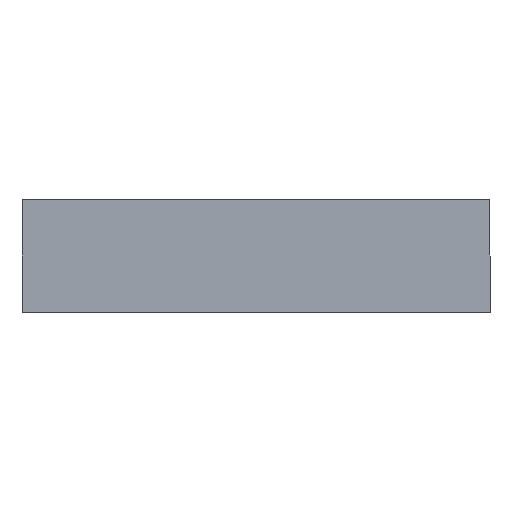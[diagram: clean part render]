
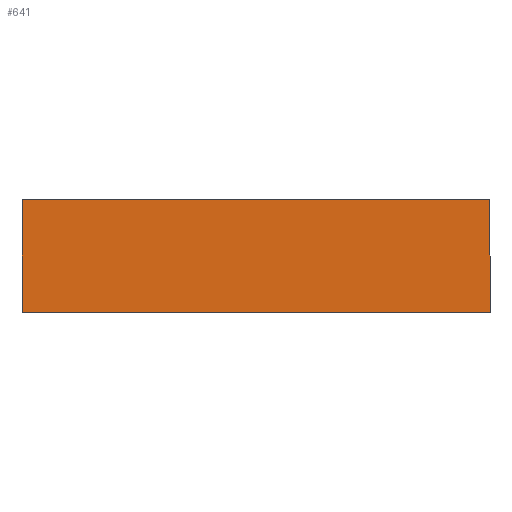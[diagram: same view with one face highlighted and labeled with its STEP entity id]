
A CAD part, front view. The second image highlights one B-rep face of the part: STEP entity #641.
In plain terms, the highlighted planar face has unit normal (0, -1, 0).
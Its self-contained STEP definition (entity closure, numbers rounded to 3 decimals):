
#12 = VECTOR ( 'NONE', #159, 1000. ) ;
#47 = FACE_OUTER_BOUND ( 'NONE', #498, .T. ) ;
#62 = VECTOR ( 'NONE', #256, 1000. ) ;
#64 = LINE ( 'NONE', #257, #62 ) ;
#75 = LINE ( 'NONE', #157, #12 ) ;
#82 = EDGE_CURVE ( 'NONE', #293, #211, #604, .T. ) ;
#98 = EDGE_CURVE ( 'NONE', #206, #294, #553, .T. ) ;
#108 = EDGE_CURVE ( 'NONE', #294, #293, #75, .T. ) ;
#127 = EDGE_CURVE ( 'NONE', #211, #206, #64, .T. ) ;
#130 = DIRECTION ( 'NONE',  ( 0., 0., -1. ) ) ;
#147 = CARTESIAN_POINT ( 'NONE',  ( -104., 0., 0. ) ) ;
#157 = CARTESIAN_POINT ( 'NONE',  ( -104., 0., 0. ) ) ;
#159 = DIRECTION ( 'NONE',  ( 1., 0., 0. ) ) ;
#171 = CARTESIAN_POINT ( 'NONE',  ( 104., 0., 0. ) ) ;
#206 = VERTEX_POINT ( 'NONE', #252 ) ;
#211 = VERTEX_POINT ( 'NONE', #250 ) ;
#234 = DIRECTION ( 'NONE',  ( 0., 0., 1. ) ) ;
#250 = CARTESIAN_POINT ( 'NONE',  ( 104., 0., 50. ) ) ;
#252 = CARTESIAN_POINT ( 'NONE',  ( -104., 0., 50. ) ) ;
#256 = DIRECTION ( 'NONE',  ( -1., 0., 0. ) ) ;
#257 = CARTESIAN_POINT ( 'NONE',  ( -104., 0., 50. ) ) ;
#280 = CARTESIAN_POINT ( 'NONE',  ( -104., 0., 0. ) ) ;
#283 = CARTESIAN_POINT ( 'NONE',  ( 104., 0., 0. ) ) ;
#293 = VERTEX_POINT ( 'NONE', #283 ) ;
#294 = VERTEX_POINT ( 'NONE', #280 ) ;
#310 = AXIS2_PLACEMENT_3D ( 'NONE', #384, #404, #337 ) ;
#337 = DIRECTION ( 'NONE',  ( -1., 0., 0. ) ) ;
#384 = CARTESIAN_POINT ( 'NONE',  ( -104., 0., 50. ) ) ;
#404 = DIRECTION ( 'NONE',  ( 0., 1., 0. ) ) ;
#408 = PLANE ( 'NONE',  #310 ) ;
#438 = ORIENTED_EDGE ( 'NONE', *, *, #108, .T. ) ;
#439 = ORIENTED_EDGE ( 'NONE', *, *, #82, .T. ) ;
#440 = ORIENTED_EDGE ( 'NONE', *, *, #127, .T. ) ;
#458 = ORIENTED_EDGE ( 'NONE', *, *, #98, .T. ) ;
#486 = VECTOR ( 'NONE', #130, 1000. ) ;
#498 = EDGE_LOOP ( 'NONE', ( #458, #438, #439, #440 ) ) ;
#553 = LINE ( 'NONE', #147, #486 ) ;
#602 = VECTOR ( 'NONE', #234, 1000. ) ;
#604 = LINE ( 'NONE', #171, #602 ) ;
#641 = ADVANCED_FACE ( 'NONE', ( #47 ), #408, .F. ) ;
